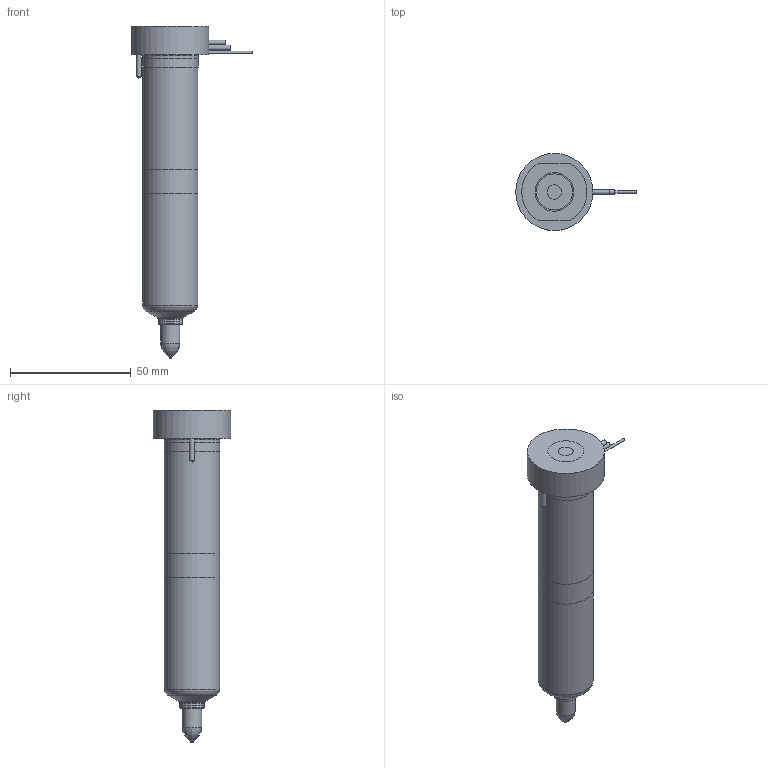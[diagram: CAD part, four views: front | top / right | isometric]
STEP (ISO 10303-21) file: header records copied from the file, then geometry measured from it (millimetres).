
FILE_DESCRIPTION(/* description */ (''),/* implementation_level */ '2;1');
FILE_NAME(/* name */ 'MXTT-MXIT13115-10_250C_b',/* time_stamp */ '2007-01-18T09:52:52+13:00',/* author */ (''),/* organization */ (''),/* preprocessor_version */ 'ST-DEVELOPER v9',/* originating_system */ 'UGS - NX 4.0',/* authorisation */ '');
FILE_SCHEMA (('CONFIG_CONTROL_DESIGN'));
Length unit declared in the file: millimetre
Products named in the file (1): MXTT-MXIT13115-10_250C_b
Bounding box: 49.95 x 32 x 137.61 mm (x, y, z)
Volume: 95258.6 mm3; surface area: 22224.6 mm2
Topology: 7 solids, 7 shells, 86 faces, 162 edges, 102 vertices
Faces by surface type: plane 35, cylinder 29, cone 12, torus 8, bspline 2
Full cylindrical faces by diameter (mm): 0.9 x1, 1 x3, 2 x4, 5.5 x1, 6 x1, 8 x1, 9.61 x1, 10.01 x2, 12.6 x1, 18.8 x1, 22.9 x2, 23 x2, 32 x1
Entity records: 2065 total; most frequent: CARTESIAN_POINT 423, DIRECTION 352, ORIENTED_EDGE 228, AXIS2_PLACEMENT_3D 163, EDGE_LOOP 138, EDGE_CURVE 114, VERTEX_POINT 95, ADVANCED_FACE 86
